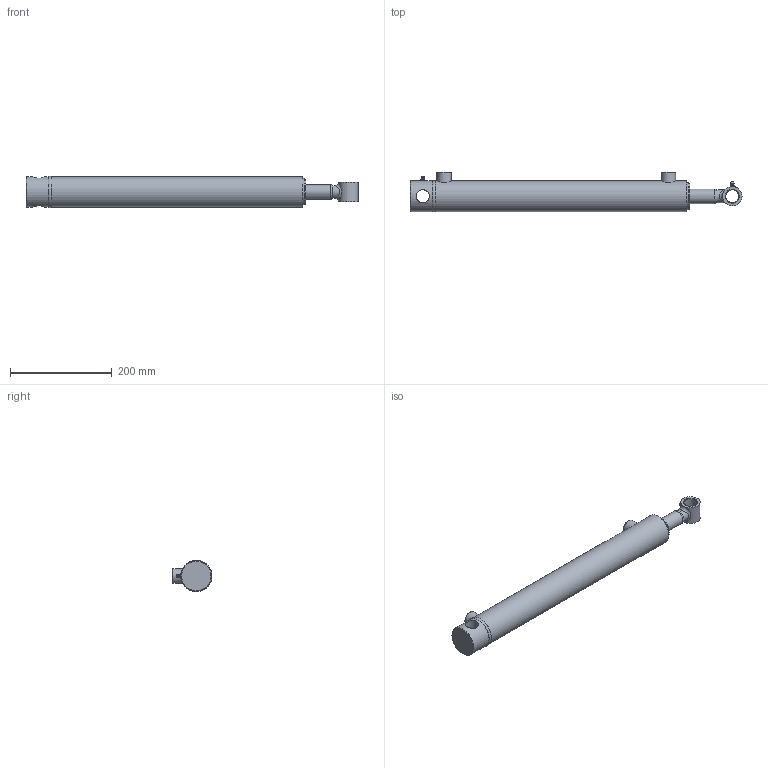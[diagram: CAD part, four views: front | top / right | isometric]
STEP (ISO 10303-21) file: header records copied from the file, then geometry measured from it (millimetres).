
FILE_DESCRIPTION(/* description */ ('Ø2.00 X 16.00 DA'),/* implementation_level */ '2;1');
FILE_NAME(/* name */ 'T:\Aces\Jobs\a6ba0f0c63514d29807d0486a333fa52\result.stp',/* time_stamp */ '2023-04-05T15:20:24+00:00',/* author */ (''),/* organization */ ('PRINCE MANUFACTURING'),/* preprocessor_version */ 'ST-DEVELOPER v18.1',/* originating_system */ 'Autodesk Inventor 2022',/* authorisation */ '');
FILE_SCHEMA (('AUTOMOTIVE_DESIGN { 1 0 10303 214 3 1 1 }'));
Length unit declared in the file: inch
Products named in the file (21): PC2016011A00-240XYXA; 0611-XYSF000-19600; 0511-T-19600; 161100184; 200015602; 06Weld1_C360; 0711-P-075; 220000208; 0811-G-113; 230025102; 230025002; 240000018; 240061326; 240000326; 0205A-FAW0-21800XA; 0105A-FAW0-21800; 210400807; 02Weld_C360; 240037071; 250001216; 270010020
Assembly tree (22 placements, depth 3):
  PC2016011A00-240XYXA
    0611-XYSF000-19600
      0511-T-19600
      161100184
      200015602  x2
      06Weld1_C360
    0711-P-075
    220000208
    0811-G-113
    230025102
    230025002
    240000018
    240061326
    240000326
    0205A-FAW0-21800XA
      0105A-FAW0-21800
      210400807
      02Weld_C360
    240037071
    250001216
    270010020  x2
Bounding box: 654.05 x 78.61 x 61.85 mm (x, y, z)
Volume: 1017350.5 mm3; surface area: 318594.7 mm2
Topology: 24 solids, 24 shells, 404 faces, 950 edges, 616 vertices
Faces by surface type: plane 104, torus 81, cylinder 77, cone 76, bspline 62, sphere 4
Full cylindrical faces by diameter (mm): 2.143 x4, 5.359 x2, 6.35 x2, 9.525 x2, 17.323 x3, 18.237 x1, 18.288 x1, 18.999 x1, 19.126 x1, 21.615 x1, 25.4 x1, 25.781 x2, 28.575 x4, 28.651 x2, 29.21 x2, 31.598 x1, 34.29 x1, 34.9 x2, 34.95 x1, 35.56 x1, 38.1 x2, 41.377 x2, 42.113 x2, 47.231 x2, 47.371 x1, 47.396 x4, 50.186 x2, 50.571 x6, 50.648 x1, 50.8 x4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
Entity records: 27132 total; most frequent: CARTESIAN_POINT 17850, DIRECTION 1756, ORIENTED_EDGE 1698, EDGE_CURVE 849, AXIS2_PLACEMENT_3D 777, VERTEX_POINT 555, CIRCLE 432, EDGE_LOOP 426
